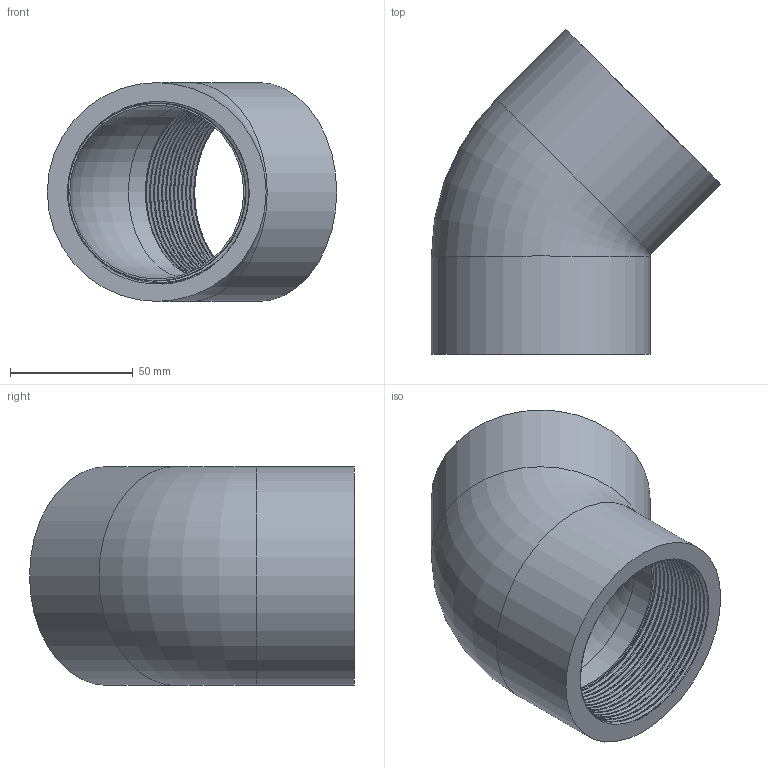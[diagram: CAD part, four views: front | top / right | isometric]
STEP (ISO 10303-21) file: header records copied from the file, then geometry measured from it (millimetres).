
FILE_DESCRIPTION(/* description */ ('PVC gomito a 45° incollaggio metrico'),/* implementation_level */ '2;1');
FILE_NAME(/* name */ 'C:\Users\POLYPIPE\Desktop\DATASET INVENTOR\LIBRERIA EFFAST\RACCORDI 3DxWEB\RER\3D_RERGYE\3D_RERGYE075H.stp',/* time_stamp */ '2018-01-19T16:34:42+01:00',/* author */ ('POLYPIPE'),/* organization */ ('Polypipe Italia s.r.l.'),/* preprocessor_version */ 'ST-DEVELOPER v16.1',/* originating_system */ 'Autodesk Inventor 2016',/* authorisation */ '');
FILE_SCHEMA (('CONFIG_CONTROL_DESIGN'));
Length unit declared in the file: millimetre
Products named in the file (1): 3D_RERGYE
Bounding box: 117.69 x 132.19 x 89 mm (x, y, z)
Volume: 245164.2 mm3; surface area: 74421.9 mm2
Topology: 1 solids, 1 shells, 24 faces, 50 edges, 30 vertices
Faces by surface type: bspline 10, cylinder 6, plane 6, torus 2
Full cylindrical faces by diameter (mm): 70.726 x2, 72.226 x2, 89 x2
Entity records: 10854 total; most frequent: CARTESIAN_POINT 10399, ORIENTED_EDGE 88, DIRECTION 68, EDGE_CURVE 44, EDGE_LOOP 34, AXIS2_PLACEMENT_3D 31, VERTEX_POINT 30, FACE_OUTER_BOUND 24
